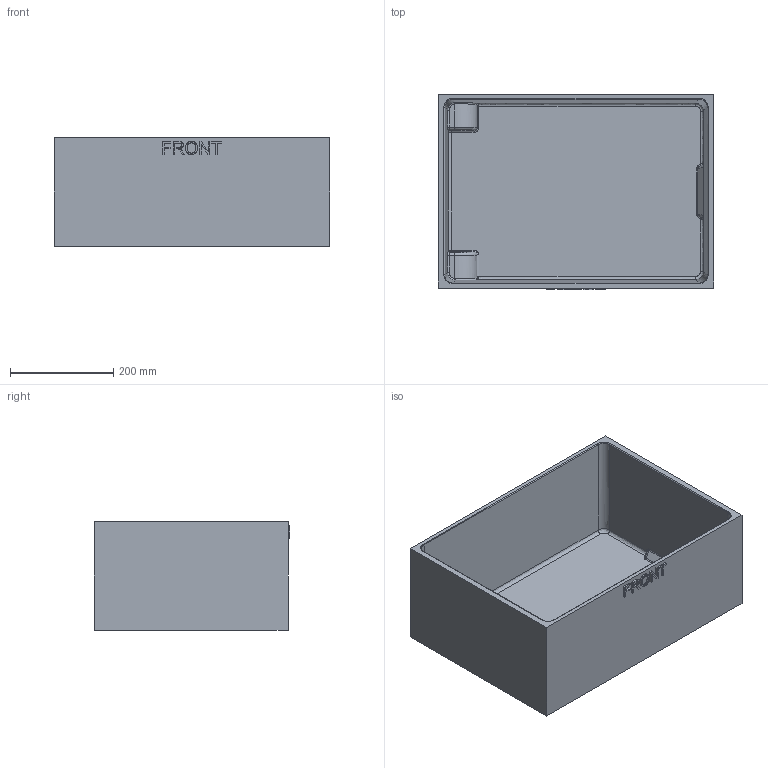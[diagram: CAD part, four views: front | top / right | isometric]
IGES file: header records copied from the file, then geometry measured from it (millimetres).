
Start section: Comment
Global section: file name: 2620-base_internal_tub.igs; native system:  By UGS Corp.; preprocessor: XPlus GENERIC/IGES 3.0; author: Author; organization: Title; date: 20100513.114032; units: millimetre
Bounding box: 533.4 x 377.82 x 209.55 mm (x, y, z)
Surface area: 1102565.6 mm2 (no closed solid volume)
Topology: 0 solids, 0 shells, 121 faces, 727 edges, 727 vertices
Faces by surface type: bspline 121
